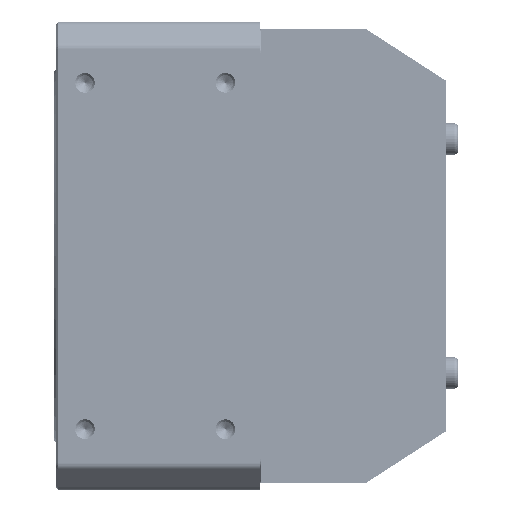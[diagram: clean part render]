
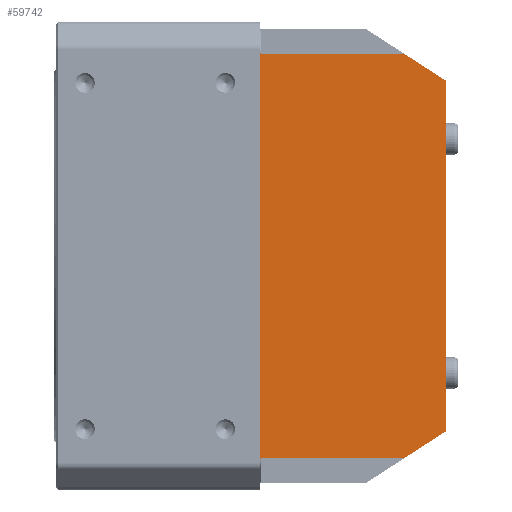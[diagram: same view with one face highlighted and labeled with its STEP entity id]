
A CAD part, front view. The second image highlights one B-rep face of the part: STEP entity #59742.
In plain terms, the highlighted planar face has unit normal (0, -1, 0) as drawn and (-1, 0, 0) by its records, which use the part's own axes.
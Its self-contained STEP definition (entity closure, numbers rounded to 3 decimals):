
#57125=DIRECTION('',(0.,1.,0.));
#57126=VECTOR('',#57125,2.2);
#57127=CARTESIAN_POINT('',(-47.9,41.71,43.472));
#57128=LINE('',#57127,#57126);
#57129=DIRECTION('',(0.,0.,-1.));
#57130=VECTOR('',#57129,86.943);
#57131=CARTESIAN_POINT('',(-47.9,41.71,43.472));
#57132=LINE('',#57131,#57130);
#57133=DIRECTION('',(0.,-1.,0.));
#57134=VECTOR('',#57133,2.2);
#57135=CARTESIAN_POINT('',(-47.9,43.91,-43.472));
#57136=LINE('',#57135,#57134);
#57137=DIRECTION('',(0.,0.,1.));
#57138=VECTOR('',#57137,0.258);
#57139=CARTESIAN_POINT('',(-47.9,43.91,-43.472));
#57140=LINE('',#57139,#57138);
#57141=DIRECTION('',(0.,0.84,0.543));
#57142=VECTOR('',#57141,10.701);
#57143=CARTESIAN_POINT('',(-47.9,74.549,-43.214));
#57144=LINE('',#57143,#57142);
#57145=DIRECTION('',(0.,0.,1.));
#57146=VECTOR('',#57145,74.8);
#57147=CARTESIAN_POINT('',(-47.9,83.534,-37.4));
#57148=LINE('',#57147,#57146);
#57149=DIRECTION('',(0.,0.84,-0.543));
#57150=VECTOR('',#57149,10.701);
#57151=CARTESIAN_POINT('',(-47.9,74.549,43.214));
#57152=LINE('',#57151,#57150);
#57153=DIRECTION('',(0.,-1.,0.));
#57154=VECTOR('',#57153,30.639);
#57155=CARTESIAN_POINT('',(-47.9,74.549,43.214));
#57156=LINE('',#57155,#57154);
#57157=DIRECTION('',(0.,0.,1.));
#57158=VECTOR('',#57157,0.258);
#57159=CARTESIAN_POINT('',(-47.9,43.91,43.214));
#57160=LINE('',#57159,#57158);
#57941=CARTESIAN_POINT('',(-47.9,41.71,43.472));
#57943=CARTESIAN_POINT('',(-47.9,41.71,-43.472));
#58815=DIRECTION('',(0.,-1.,0.));
#58816=VECTOR('',#58815,30.639);
#58817=CARTESIAN_POINT('',(-47.9,74.549,-43.214));
#58818=LINE('',#58817,#58816);
#59097=CARTESIAN_POINT('',(-47.9,74.549,-43.214));
#59098=CARTESIAN_POINT('',(-47.9,83.534,-37.4));
#59099=VERTEX_POINT('',#59097);
#59100=VERTEX_POINT('',#59098);
#59101=CARTESIAN_POINT('',(-47.9,74.549,43.214));
#59102=CARTESIAN_POINT('',(-47.9,83.534,37.4));
#59103=VERTEX_POINT('',#59101);
#59104=VERTEX_POINT('',#59102);
#59105=CARTESIAN_POINT('',(-47.9,43.91,43.214));
#59106=VERTEX_POINT('',#59105);
#59107=CARTESIAN_POINT('',(-47.9,43.91,-43.214));
#59108=VERTEX_POINT('',#59107);
#59357=CARTESIAN_POINT('',(-47.9,43.91,43.472));
#59359=VERTEX_POINT('',#59357);
#59364=VERTEX_POINT('',#57941);
#59380=VERTEX_POINT('',#57943);
#59385=CARTESIAN_POINT('',(-47.9,43.91,-43.472));
#59386=VERTEX_POINT('',#59385);
#59715=CARTESIAN_POINT('',(-47.9,44.13,-44.13));
#59716=DIRECTION('',(-1.,0.,0.));
#59717=DIRECTION('',(0.,1.,0.));
#59718=AXIS2_PLACEMENT_3D('',#59715,#59716,#59717);
#59719=PLANE('',#59718);
#59721=ORIENTED_EDGE('',*,*,#59720,.F.);
#59723=ORIENTED_EDGE('',*,*,#59722,.T.);
#59725=ORIENTED_EDGE('',*,*,#59724,.F.);
#59727=ORIENTED_EDGE('',*,*,#59726,.T.);
#59729=ORIENTED_EDGE('',*,*,#59728,.F.);
#59731=ORIENTED_EDGE('',*,*,#59730,.T.);
#59733=ORIENTED_EDGE('',*,*,#59732,.T.);
#59735=ORIENTED_EDGE('',*,*,#59734,.F.);
#59737=ORIENTED_EDGE('',*,*,#59736,.T.);
#59739=ORIENTED_EDGE('',*,*,#59738,.T.);
#59740=EDGE_LOOP('',(#59721,#59723,#59725,#59727,#59729,#59731,#59733,#59735,
#59737,#59739));
#59741=FACE_OUTER_BOUND('',#59740,.F.);
#59742=ADVANCED_FACE('',(#59741),#59719,.T.);
#59720=EDGE_CURVE('',#59364,#59359,#57128,.T.);
#59722=EDGE_CURVE('',#59364,#59380,#57132,.T.);
#59724=EDGE_CURVE('',#59386,#59380,#57136,.T.);
#59726=EDGE_CURVE('',#59386,#59108,#57140,.T.);
#59728=EDGE_CURVE('',#59099,#59108,#58818,.T.);
#59730=EDGE_CURVE('',#59099,#59100,#57144,.T.);
#59732=EDGE_CURVE('',#59100,#59104,#57148,.T.);
#59734=EDGE_CURVE('',#59103,#59104,#57152,.T.);
#59736=EDGE_CURVE('',#59103,#59106,#57156,.T.);
#59738=EDGE_CURVE('',#59106,#59359,#57160,.T.);
